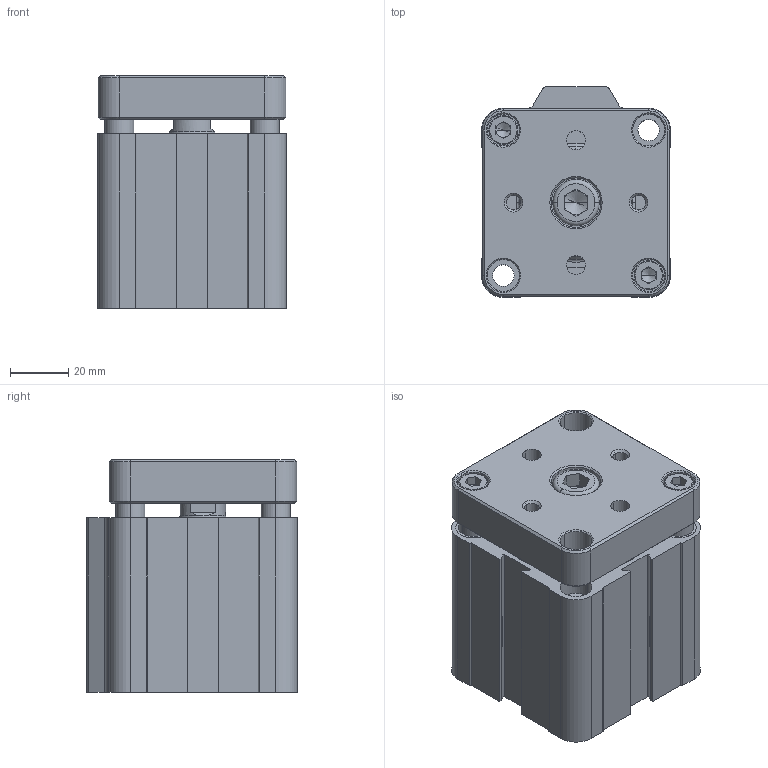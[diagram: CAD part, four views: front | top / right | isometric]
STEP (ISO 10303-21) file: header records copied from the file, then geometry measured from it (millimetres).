
FILE_DESCRIPTION (( 'STEP AP214' ), '1' );
FILE_NAME ('D11L20500010.STEP', '2021-11-08T11:55:12', ( '' ), ( '' ), 'SwSTEP 2.0', 'SolidWorks 2016', '' );
FILE_SCHEMA (( 'AUTOMOTIVE_DESIGN' ));
Length unit declared in the file: millimetre
Products named in the file (11): 22.F01.000_22.F01.010; Pistone Ø50 corsa breve WEB; 22.050.000A_22.050.010A; D11L20500010; 22.F09.000_22.F09.010; TP Ø50 Corsa Breve WEB; TA Ø50 Corsa Breve WEB; 22.024.1; M6x14_M6x14; M10x16_M10x16; 22.351.0
Assembly tree (15 placements, depth 2):
  D11L20500010
    22.050.000A_22.050.010A
    TA Ø50 Corsa Breve WEB
    TP Ø50 Corsa Breve WEB
    22.F01.000_22.F01.010
    Pistone Ø50 corsa breve WEB
    22.351.0  x4
    22.F09.000_22.F09.010  x2
    22.024.1
    M6x14_M6x14  x2
    M10x16_M10x16
Bounding box: 65 x 72.5 x 80 mm (x, y, z)
Volume: 262903.6 mm3; surface area: 93090.3 mm2
Topology: 18 solids, 18 shells, 750 faces, 1779 edges, 1090 vertices
Faces by surface type: cone 272, cylinder 271, plane 175, torus 32
Entity records: 20222 total; most frequent: DIRECTION 3451, CARTESIAN_POINT 3156, ORIENTED_EDGE 2898, EDGE_CURVE 1449, AXIS2_PLACEMENT_3D 1387, VERTEX_POINT 896, CIRCLE 756, EDGE_LOOP 695
